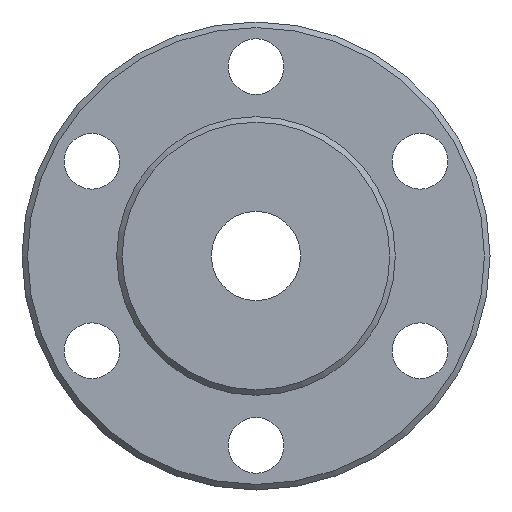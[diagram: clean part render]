
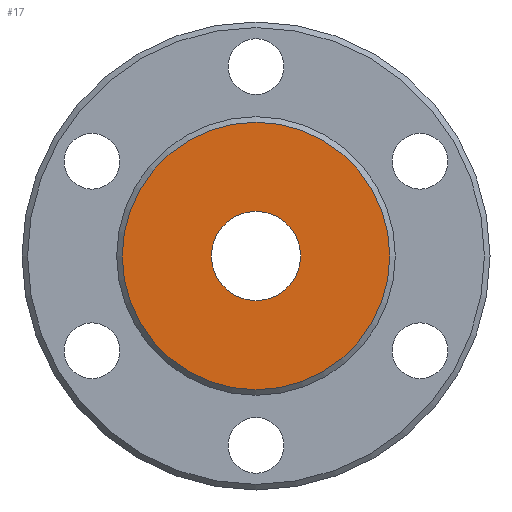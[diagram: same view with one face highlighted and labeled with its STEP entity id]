
A CAD part, front view. The second image highlights one B-rep face of the part: STEP entity #17.
In plain terms, the highlighted planar face has unit normal (0, -1, 0).
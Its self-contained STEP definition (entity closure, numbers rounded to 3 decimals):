
#17 = ADVANCED_FACE('',(#18,#54),#31,.T.);
#18 = FACE_BOUND('',#19,.T.);
#19 = EDGE_LOOP('',(#20));
#20 = ORIENTED_EDGE('',*,*,#21,.F.);
#21 = EDGE_CURVE('',#22,#22,#24,.T.);
#22 = VERTEX_POINT('',#23);
#23 = CARTESIAN_POINT('',(0.,0.,-4.));
#24 = SURFACE_CURVE('',#25,(#30,#42),.PCURVE_S1.);
#25 = CIRCLE('',#26,4.);
#26 = AXIS2_PLACEMENT_3D('',#27,#28,#29);
#27 = CARTESIAN_POINT('',(0.,0.,0.));
#28 = DIRECTION('',(0.,-1.,0.));
#29 = DIRECTION('',(0.,0.,-1.));
#30 = PCURVE('',#31,#36);
#31 = PLANE('',#32);
#32 = AXIS2_PLACEMENT_3D('',#33,#34,#35);
#33 = CARTESIAN_POINT('',(0.,0.,0.));
#34 = DIRECTION('',(0.,-1.,0.));
#35 = DIRECTION('',(0.,0.,-1.));
#36 = DEFINITIONAL_REPRESENTATION('',(#37),#41);
#37 = CIRCLE('',#38,4.);
#38 = AXIS2_PLACEMENT_2D('',#39,#40);
#39 = CARTESIAN_POINT('',(0.,0.));
#40 = DIRECTION('',(1.,0.));
#41 = ( GEOMETRIC_REPRESENTATION_CONTEXT(2) 
PARAMETRIC_REPRESENTATION_CONTEXT() REPRESENTATION_CONTEXT('2D SPACE',''
  ) );
#42 = PCURVE('',#43,#48);
#43 = CYLINDRICAL_SURFACE('',#44,4.);
#44 = AXIS2_PLACEMENT_3D('',#45,#46,#47);
#45 = CARTESIAN_POINT('',(0.,132.284,0.));
#46 = DIRECTION('',(-0.,1.,-0.));
#47 = DIRECTION('',(0.,0.,-1.));
#48 = DEFINITIONAL_REPRESENTATION('',(#49),#53);
#49 = LINE('',#50,#51);
#50 = CARTESIAN_POINT('',(6.283,-132.284));
#51 = VECTOR('',#52,1.);
#52 = DIRECTION('',(-1.,0.));
#53 = ( GEOMETRIC_REPRESENTATION_CONTEXT(2) 
PARAMETRIC_REPRESENTATION_CONTEXT() REPRESENTATION_CONTEXT('2D SPACE',''
  ) );
#54 = FACE_BOUND('',#55,.T.);
#55 = EDGE_LOOP('',(#56,#87));
#56 = ORIENTED_EDGE('',*,*,#57,.T.);
#57 = EDGE_CURVE('',#58,#60,#62,.T.);
#58 = VERTEX_POINT('',#59);
#59 = CARTESIAN_POINT('',(0.,0.,-12.));
#60 = VERTEX_POINT('',#61);
#61 = CARTESIAN_POINT('',(0.,0.,12.));
#62 = SURFACE_CURVE('',#63,(#68,#75),.PCURVE_S1.);
#63 = CIRCLE('',#64,12.);
#64 = AXIS2_PLACEMENT_3D('',#65,#66,#67);
#65 = CARTESIAN_POINT('',(0.,0.,0.));
#66 = DIRECTION('',(0.,-1.,0.));
#67 = DIRECTION('',(0.,0.,-1.));
#68 = PCURVE('',#31,#69);
#69 = DEFINITIONAL_REPRESENTATION('',(#70),#74);
#70 = CIRCLE('',#71,12.);
#71 = AXIS2_PLACEMENT_2D('',#72,#73);
#72 = CARTESIAN_POINT('',(0.,0.));
#73 = DIRECTION('',(1.,0.));
#74 = ( GEOMETRIC_REPRESENTATION_CONTEXT(2) 
PARAMETRIC_REPRESENTATION_CONTEXT() REPRESENTATION_CONTEXT('2D SPACE',''
  ) );
#75 = PCURVE('',#76,#81);
#76 = CONICAL_SURFACE('',#77,12.5,0.785);
#77 = AXIS2_PLACEMENT_3D('',#78,#79,#80);
#78 = CARTESIAN_POINT('',(0.,0.5,0.));
#79 = DIRECTION('',(-0.,1.,-0.));
#80 = DIRECTION('',(0.,0.,1.));
#81 = DEFINITIONAL_REPRESENTATION('',(#82),#86);
#82 = LINE('',#83,#84);
#83 = CARTESIAN_POINT('',(3.142,-0.5));
#84 = VECTOR('',#85,1.);
#85 = DIRECTION('',(-1.,0.));
#86 = ( GEOMETRIC_REPRESENTATION_CONTEXT(2) 
PARAMETRIC_REPRESENTATION_CONTEXT() REPRESENTATION_CONTEXT('2D SPACE',''
  ) );
#87 = ORIENTED_EDGE('',*,*,#88,.T.);
#88 = EDGE_CURVE('',#60,#58,#89,.T.);
#89 = SURFACE_CURVE('',#90,(#95,#102),.PCURVE_S1.);
#90 = CIRCLE('',#91,12.);
#91 = AXIS2_PLACEMENT_3D('',#92,#93,#94);
#92 = CARTESIAN_POINT('',(0.,0.,0.));
#93 = DIRECTION('',(0.,-1.,0.));
#94 = DIRECTION('',(0.,0.,-1.));
#95 = PCURVE('',#31,#96);
#96 = DEFINITIONAL_REPRESENTATION('',(#97),#101);
#97 = CIRCLE('',#98,12.);
#98 = AXIS2_PLACEMENT_2D('',#99,#100);
#99 = CARTESIAN_POINT('',(0.,0.));
#100 = DIRECTION('',(1.,0.));
#101 = ( GEOMETRIC_REPRESENTATION_CONTEXT(2) 
PARAMETRIC_REPRESENTATION_CONTEXT() REPRESENTATION_CONTEXT('2D SPACE',''
  ) );
#102 = PCURVE('',#76,#103);
#103 = DEFINITIONAL_REPRESENTATION('',(#104),#108);
#104 = LINE('',#105,#106);
#105 = CARTESIAN_POINT('',(9.425,-0.5));
#106 = VECTOR('',#107,1.);
#107 = DIRECTION('',(-1.,0.));
#108 = ( GEOMETRIC_REPRESENTATION_CONTEXT(2) 
PARAMETRIC_REPRESENTATION_CONTEXT() REPRESENTATION_CONTEXT('2D SPACE',''
  ) );
